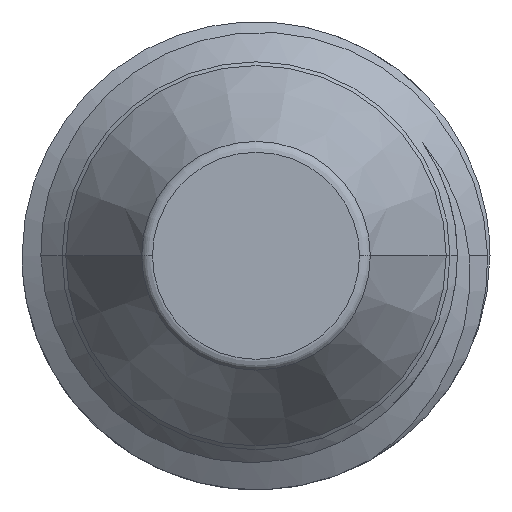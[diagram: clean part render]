
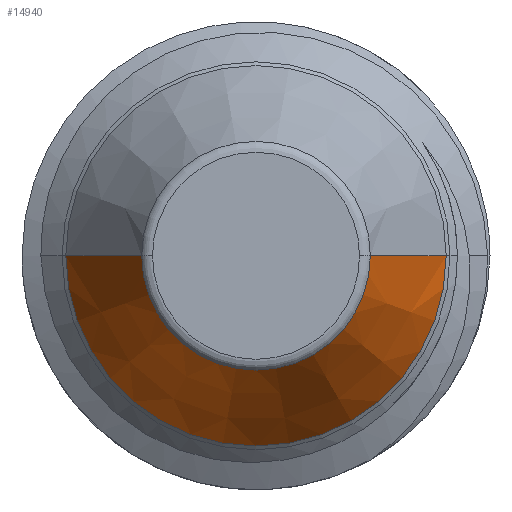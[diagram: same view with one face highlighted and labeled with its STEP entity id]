
A CAD part, left-side view. The second image highlights one B-rep face of the part: STEP entity #14940.
In plain terms, the highlighted conical face has half-angle 30 degrees and reference radius 3.861 mm.
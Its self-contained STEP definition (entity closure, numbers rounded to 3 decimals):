
#14400=CARTESIAN_POINT('',(1.262,-3.798,
0.));
#14410=VERTEX_POINT('',#14400);
#14490=CARTESIAN_POINT('',(1.262,3.924,0.));
#14500=VERTEX_POINT('',#14490);
#14530=CARTESIAN_POINT('',(1.262,0.063,0.));
#14540=DIRECTION('',(1.,0.,0.));
#14550=DIRECTION('',(0.,1.,0.));
#14560=AXIS2_PLACEMENT_3D('',#14530,#14540,#14550);
#14570=CIRCLE('',#14560,3.861);
#14580=EDGE_CURVE('',#14410,#14500,#14570,.T.);
#14630=CARTESIAN_POINT('',(1.262,0.063,0.));
#14640=DIRECTION('',(1.,0.,0.));
#14650=DIRECTION('',(0.,-1.,0.));
#14660=AXIS2_PLACEMENT_3D('',#14630,#14640,#14650);
#14670=CONICAL_SURFACE('',#14660,3.861,0.524);
#14680=CARTESIAN_POINT('',(1.262,-3.798,0.));
#14690=DIRECTION('',(0.866,-0.5,0.));
#14700=VECTOR('',#14690,7.722);
#14710=LINE('',#14680,#14700);
#14720=CARTESIAN_POINT('',(-1.405,-2.258,0.));
#14730=VERTEX_POINT('',#14720);
#14740=EDGE_CURVE('',#14730,#14410,#14710,.T.);
#14750=ORIENTED_EDGE('',*,*,#14740,.F.);
#14760=ORIENTED_EDGE('',*,*,#14580,.F.);
#14770=CARTESIAN_POINT('',(1.262,3.924,
0.));
#14780=DIRECTION('',(0.866,0.5,
0.));
#14790=VECTOR('',#14780,7.722);
#14800=LINE('',#14770,#14790);
#14810=CARTESIAN_POINT('',(-1.405,2.384,0.));
#14820=VERTEX_POINT('',#14810);
#14830=EDGE_CURVE('',#14820,#14500,#14800,.T.);
#14840=ORIENTED_EDGE('',*,*,#14830,.T.);
#14850=CARTESIAN_POINT('',(-1.405,0.063,0.));
#14860=DIRECTION('',(1.,0.,0.));
#14870=DIRECTION('',(0.,1.,0.));
#14880=AXIS2_PLACEMENT_3D('',#14850,#14860,#14870);
#14890=CIRCLE('',#14880,2.321);
#14900=EDGE_CURVE('',#14730,#14820,#14890,.T.);
#14910=ORIENTED_EDGE('',*,*,#14900,.T.);
#14920=EDGE_LOOP('',(#14910,#14840,#14760,#14750));
#14930=FACE_OUTER_BOUND('',#14920,.T.);
#14940=ADVANCED_FACE('',(#14930),#14670,.T.);
